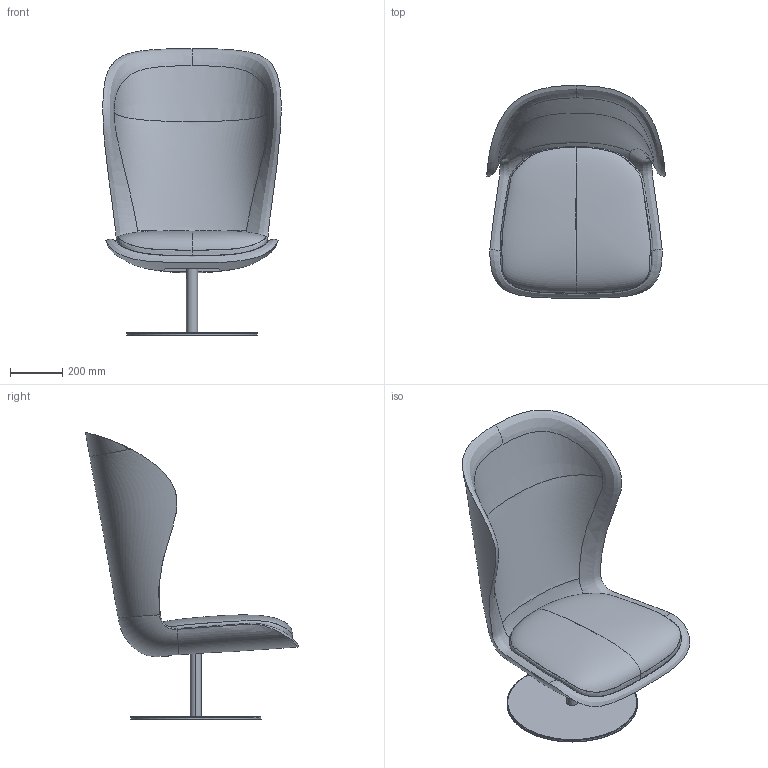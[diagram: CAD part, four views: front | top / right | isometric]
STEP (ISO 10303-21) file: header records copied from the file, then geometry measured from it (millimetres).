
FILE_DESCRIPTION(/* description */ (''),/* implementation_level */ '2;1');
FILE_NAME(/* name */ 'KINOSH~2',/* time_stamp */ '2022-10-19T17:22:28+09:00',/* author */ (''),/* organization */ (''),/* preprocessor_version */ 'ST-DEVELOPER v16.5',/* originating_system */ '',/* authorisation */ '');
FILE_SCHEMA (('AUTOMOTIVE_DESIGN'));
Length unit declared in the file: millimetre
Products named in the file (1): Document
Bounding box: 682.58 x 815.61 x 1098.75 mm (x, y, z)
Volume: 46731161.6 mm3; surface area: 3246639 mm2
Topology: 1 solids, 35 shells, 59 faces, 237 edges, 200 vertices
Faces by surface type: bspline 46, plane 13
Entity records: 75770 total; most frequent: CARTESIAN_POINT 74566, ORIENTED_EDGE 284, EDGE_CURVE 227, VERTEX_POINT 200, B_SPLINE_CURVE_WITH_KNOTS 103, EDGE_LOOP 69, ADVANCED_FACE 59, FACE_OUTER_BOUND 59
